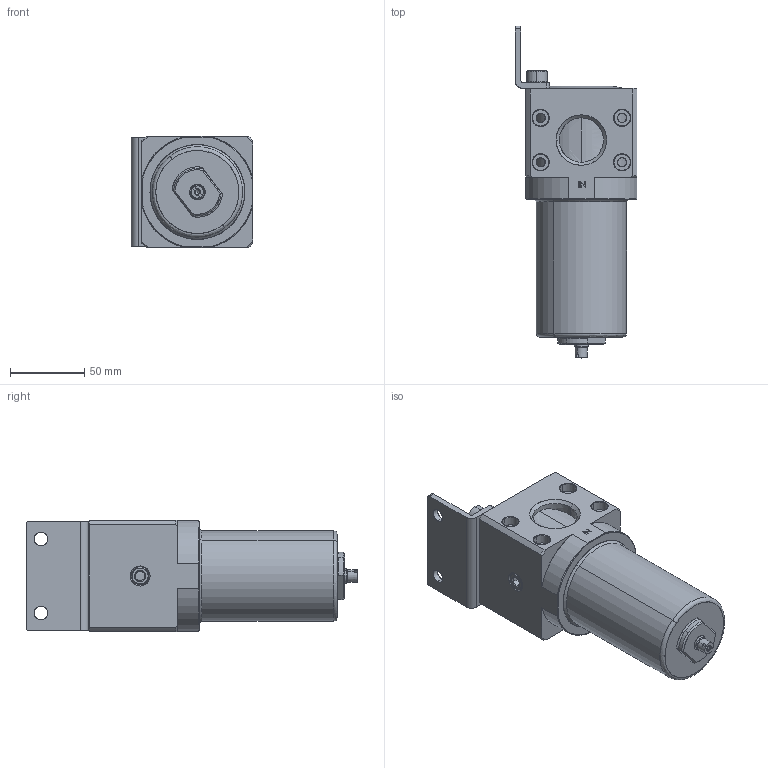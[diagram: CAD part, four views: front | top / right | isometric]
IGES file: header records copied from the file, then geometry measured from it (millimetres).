
Start section: SolidWorks IGES file using analytic representation for surfaces
Global section: file name: C:\Documents and Settings\Administrator\桌面\USF-06,08.IGS,1; native system: 5HSolidWorks 2012; preprocessor: SolidWorks 2012; author: Administrator; date: 140305.100904; units: millimetre
Bounding box: 82.25 x 224 x 75 mm (x, y, z)
Surface area: 112571.2 mm2 (no closed solid volume)
Topology: 0 solids, 0 shells, 466 faces, 9331 edges, 10391 vertices
Faces by surface type: revolution 306, bspline 160
